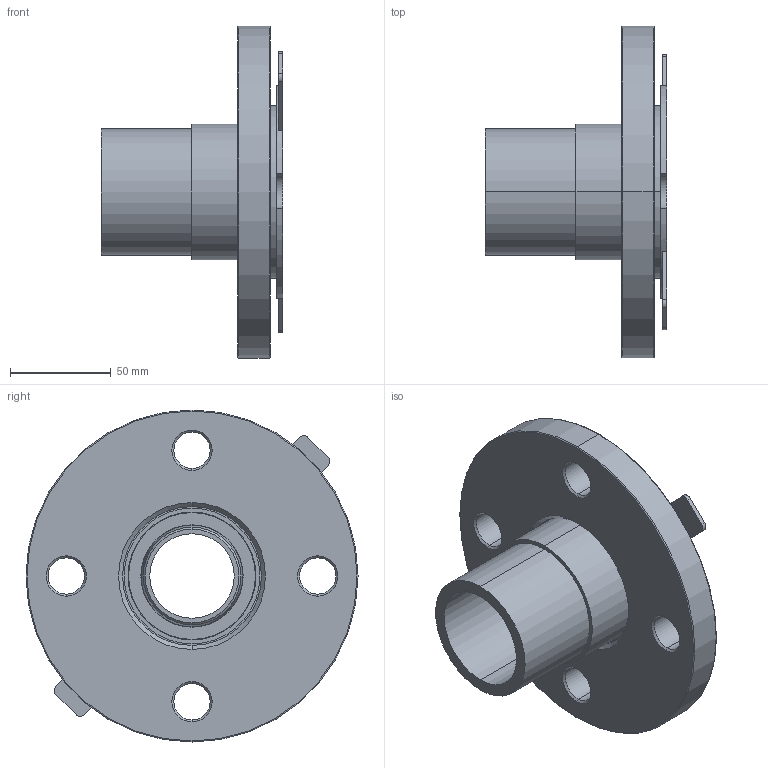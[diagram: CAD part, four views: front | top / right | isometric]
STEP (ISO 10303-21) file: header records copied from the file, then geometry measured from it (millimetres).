
FILE_DESCRIPTION (( 'STEP AP214' ), '1' );
FILE_NAME ('KP_C20-63.STEP', '2011-09-22T05:35:22', ( 'robinj' ), ( 'Microsoft' ), 'SwSTEP 2.0', 'SolidWorks 2011', '' );
FILE_SCHEMA (( 'AUTOMOTIVE_DESIGN' ));
Length unit declared in the file: millimetre
Products named in the file (1): KP_C20-63
Bounding box: 90 x 165 x 165 mm (x, y, z)
Volume: 427425.4 mm3; surface area: 127084.2 mm2
Topology: 3 solids, 3 shells, 103 faces, 235 edges, 146 vertices
Faces by surface type: cylinder 47, cone 22, plane 22, torus 12
Entity records: 3074 total; most frequent: DIRECTION 589, CARTESIAN_POINT 485, ORIENTED_EDGE 470, AXIS2_PLACEMENT_3D 250, EDGE_CURVE 235, VERTEX_POINT 146, CIRCLE 146, EDGE_LOOP 125
